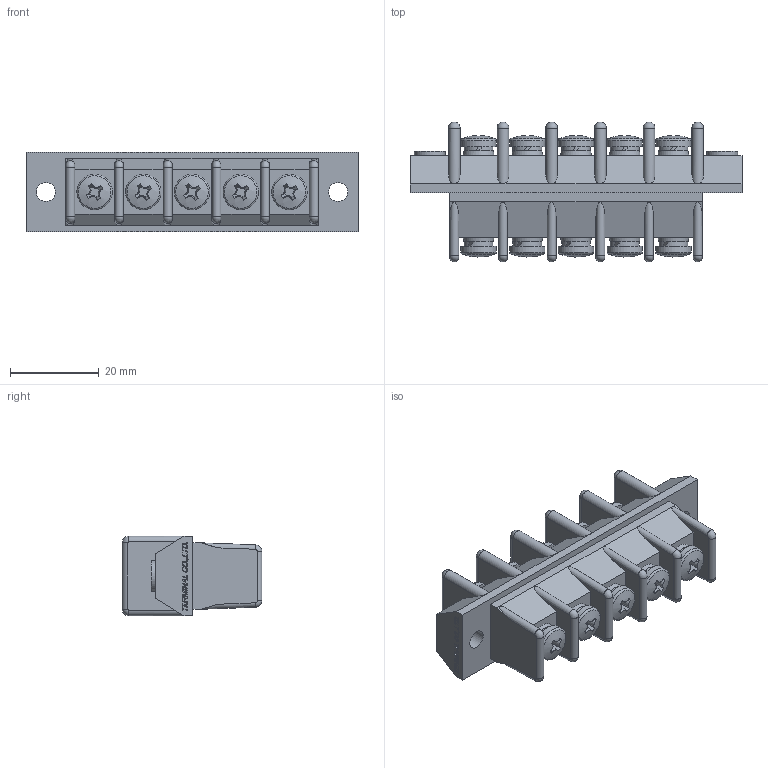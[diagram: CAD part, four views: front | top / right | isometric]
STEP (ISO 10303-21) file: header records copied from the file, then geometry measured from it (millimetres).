
FILE_DESCRIPTION(/* description */ ('Alibre Inc.'),/* implementation_level */ '2;1');
FILE_NAME(/* name */ 'export0',/* time_stamp */ '2016-01-16T17:50:24+09:00',/* author */ (''),/* organization */ (''),/* preprocessor_version */ 'ST-DEVELOPER v14',/* originating_system */ 'Alibre',/* authorisation */ '');
FILE_SCHEMA (('CONFIG_CONTROL_DESIGN'));
Length unit declared in the file: centimetre
Products named in the file (1): ID_1
Bounding box: 75 x 31.57 x 18 mm (x, y, z)
Volume: 21109.8 mm3; surface area: 10409.7 mm2
Topology: 1 solids, 6 shells, 798 faces, 2072 edges, 1369 vertices
Faces by surface type: plane 515, bspline 104, cylinder 75, cone 60, torus 34, sphere 10
Full cylindrical faces by diameter (mm): 4 x5, 4.3 x2, 6.5 x10, 7 x2, 8 x10
Entity records: 23836 total; most frequent: CARTESIAN_POINT 5412, ORIENTED_EDGE 4032, DIRECTION 3090, EDGE_CURVE 2016, VERTEX_POINT 1362, AXIS2_PLACEMENT_3D 1208, VECTOR 1194, LINE 1194
